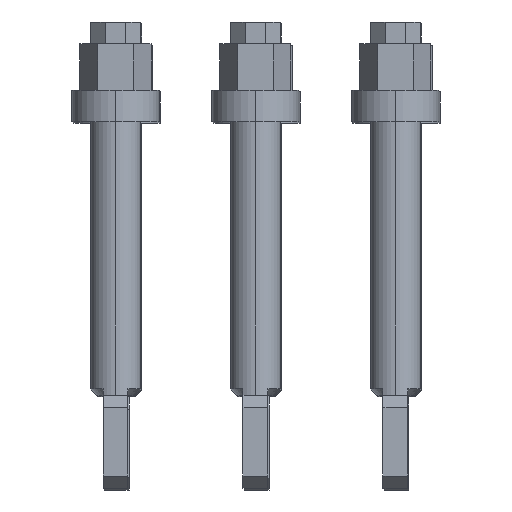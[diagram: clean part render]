
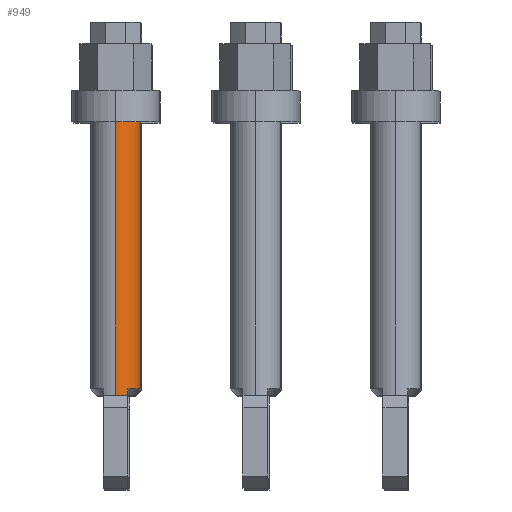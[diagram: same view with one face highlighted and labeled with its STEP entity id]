
A CAD part, front view. The second image highlights one B-rep face of the part: STEP entity #949.
In plain terms, the highlighted cylindrical face has radius 8 mm (diameter 16 mm), a partial arc.
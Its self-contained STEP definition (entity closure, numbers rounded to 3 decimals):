
#19 = CARTESIAN_POINT ( 'NONE',  ( 0., -118., 0. ) ) ;
#39 = EDGE_CURVE ( 'NONE', #899, #1241, #333, .T. ) ;
#46 = CYLINDRICAL_SURFACE ( 'NONE', #902, 8. ) ;
#82 = CARTESIAN_POINT ( 'NONE',  ( 0., -120., 0. ) ) ;
#92 = VECTOR ( 'NONE', #607, 1000. ) ;
#117 = CARTESIAN_POINT ( 'NONE',  ( 4., -118., -6.928 ) ) ;
#119 = EDGE_CURVE ( 'NONE', #1030, #1233, #986, .T. ) ;
#183 = DIRECTION ( 'NONE',  ( 0., 1., 0. ) ) ;
#189 = LINE ( 'NONE', #1342, #280 ) ;
#215 = CARTESIAN_POINT ( 'NONE',  ( 4., -120., 6.928 ) ) ;
#228 = AXIS2_PLACEMENT_3D ( 'NONE', #1134, #1389, #683 ) ;
#262 = CARTESIAN_POINT ( 'NONE',  ( 0., -120., 0. ) ) ;
#280 = VECTOR ( 'NONE', #868, 1000. ) ;
#282 = AXIS2_PLACEMENT_3D ( 'NONE', #262, #834, #1050 ) ;
#306 = ORIENTED_EDGE ( 'NONE', *, *, #39, .T. ) ;
#318 = EDGE_CURVE ( 'NONE', #920, #1232, #817, .T. ) ;
#319 = DIRECTION ( 'NONE',  ( 0., 1., 0. ) ) ;
#333 = CIRCLE ( 'NONE', #1307, 8. ) ;
#345 = LINE ( 'NONE', #738, #1138 ) ;
#380 = AXIS2_PLACEMENT_3D ( 'NONE', #1078, #1438, #536 ) ;
#386 = DIRECTION ( 'NONE',  ( 0., 0., -1. ) ) ;
#392 = CARTESIAN_POINT ( 'NONE',  ( 0., -120., -8. ) ) ;
#428 = LINE ( 'NONE', #392, #609 ) ;
#438 = CARTESIAN_POINT ( 'NONE',  ( 4., -118., 6.928 ) ) ;
#439 = ORIENTED_EDGE ( 'NONE', *, *, #921, .T. ) ;
#498 = CARTESIAN_POINT ( 'NONE',  ( 4., -118., -6.928 ) ) ;
#536 = DIRECTION ( 'NONE',  ( 0., 0., -1. ) ) ;
#542 = DIRECTION ( 'NONE',  ( 0., 0., 1. ) ) ;
#550 = ORIENTED_EDGE ( 'NONE', *, *, #1463, .F. ) ;
#570 = EDGE_LOOP ( 'NONE', ( #1461, #1357, #1289, #550, #1476, #439, #306, #1180 ) ) ;
#607 = DIRECTION ( 'NONE',  ( 0., -1., 0. ) ) ;
#609 = VECTOR ( 'NONE', #1430, 1000. ) ;
#671 = VERTEX_POINT ( 'NONE', #901 ) ;
#683 = DIRECTION ( 'NONE',  ( 0., 0., -1. ) ) ;
#714 = CARTESIAN_POINT ( 'NONE',  ( 0., -120., 8. ) ) ;
#738 = CARTESIAN_POINT ( 'NONE',  ( 0., -120., 8. ) ) ;
#779 = CIRCLE ( 'NONE', #380, 8. ) ;
#790 = EDGE_CURVE ( 'NONE', #1107, #671, #779, .T. ) ;
#817 = CIRCLE ( 'NONE', #228, 8. ) ;
#834 = DIRECTION ( 'NONE',  ( 0., -1., 0. ) ) ;
#868 = DIRECTION ( 'NONE',  ( 0., 1., 0. ) ) ;
#894 = FACE_OUTER_BOUND ( 'NONE', #570, .T. ) ;
#899 = VERTEX_POINT ( 'NONE', #438 ) ;
#901 = CARTESIAN_POINT ( 'NONE',  ( 4., -120., -6.928 ) ) ;
#902 = AXIS2_PLACEMENT_3D ( 'NONE', #82, #319, #542 ) ;
#920 = VERTEX_POINT ( 'NONE', #1099 ) ;
#921 = EDGE_CURVE ( 'NONE', #1030, #899, #189, .T. ) ;
#949 = ADVANCED_FACE ( 'NONE', ( #894 ), #46, .T. ) ;
#986 = CIRCLE ( 'NONE', #282, 8. ) ;
#1030 = VERTEX_POINT ( 'NONE', #215 ) ;
#1039 = LINE ( 'NONE', #498, #92 ) ;
#1050 = DIRECTION ( 'NONE',  ( 0., 0., -1. ) ) ;
#1078 = CARTESIAN_POINT ( 'NONE',  ( 0., -120., 0. ) ) ;
#1099 = CARTESIAN_POINT ( 'NONE',  ( 0., -27.5, -8. ) ) ;
#1107 = VERTEX_POINT ( 'NONE', #1147 ) ;
#1134 = CARTESIAN_POINT ( 'NONE',  ( 0., -27.5, 0. ) ) ;
#1138 = VECTOR ( 'NONE', #183, 1000. ) ;
#1147 = CARTESIAN_POINT ( 'NONE',  ( 0., -120., -8. ) ) ;
#1156 = DIRECTION ( 'NONE',  ( 0., 1., 0. ) ) ;
#1180 = ORIENTED_EDGE ( 'NONE', *, *, #1238, .T. ) ;
#1232 = VERTEX_POINT ( 'NONE', #1410 ) ;
#1233 = VERTEX_POINT ( 'NONE', #714 ) ;
#1238 = EDGE_CURVE ( 'NONE', #1241, #671, #1039, .T. ) ;
#1241 = VERTEX_POINT ( 'NONE', #117 ) ;
#1289 = ORIENTED_EDGE ( 'NONE', *, *, #318, .T. ) ;
#1307 = AXIS2_PLACEMENT_3D ( 'NONE', #19, #1156, #386 ) ;
#1342 = CARTESIAN_POINT ( 'NONE',  ( 4., -120., 6.928 ) ) ;
#1357 = ORIENTED_EDGE ( 'NONE', *, *, #1394, .T. ) ;
#1389 = DIRECTION ( 'NONE',  ( 0., -1., 0. ) ) ;
#1394 = EDGE_CURVE ( 'NONE', #1107, #920, #428, .T. ) ;
#1410 = CARTESIAN_POINT ( 'NONE',  ( 0., -27.5, 8. ) ) ;
#1430 = DIRECTION ( 'NONE',  ( 0., 1., 0. ) ) ;
#1438 = DIRECTION ( 'NONE',  ( 0., -1., 0. ) ) ;
#1461 = ORIENTED_EDGE ( 'NONE', *, *, #790, .F. ) ;
#1463 = EDGE_CURVE ( 'NONE', #1233, #1232, #345, .T. ) ;
#1476 = ORIENTED_EDGE ( 'NONE', *, *, #119, .F. ) ;
